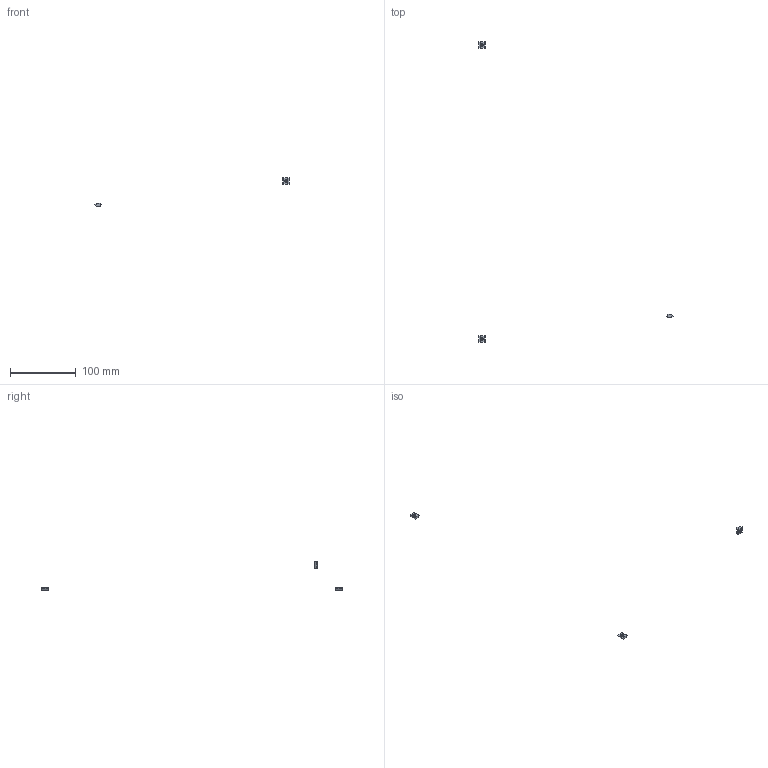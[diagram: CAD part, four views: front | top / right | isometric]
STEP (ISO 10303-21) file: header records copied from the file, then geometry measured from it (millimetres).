
FILE_DESCRIPTION(/* description */ (''),/* implementation_level */ '2;1');
FILE_NAME(/* name */ 'OP8B69~1',/* time_stamp */ '2014-02-14T19:49:09+01:00',/* author */ (''),/* organization */ (''),/* preprocessor_version */ 'ST-DEVELOPER v14',/* originating_system */ '',/* authorisation */ '');
FILE_SCHEMA (('AUTOMOTIVE_DESIGN'));
Length unit declared in the file: millimetre
Products named in the file (2): Document; tslot nut, pre, M4
Assembly tree (3 placements, depth 2):
  Document
    tslot nut, pre, M4  x3
Bounding box: 295 x 456 x 43.44 mm (x, y, z)
Volume: 850.3 mm3; surface area: 1080.2 mm2
Topology: 3 solids, 3 shells, 36 faces, 90 edges, 60 vertices
Faces by surface type: plane 30, bspline 6
Entity records: 818 total; most frequent: CARTESIAN_POINT 332, B_SPLINE_CURVE_WITH_KNOTS 84, ORIENTED_EDGE 60, PCURVE 60, DEFINITIONAL_REPRESENTATION 60, SURFACE_CURVE 30, EDGE_CURVE 30, DIRECTION 22
